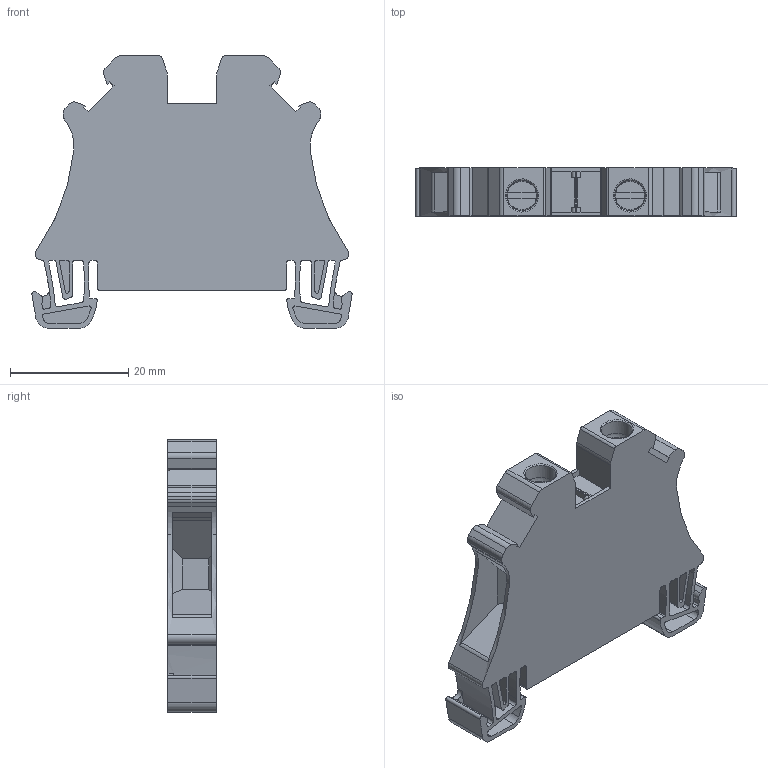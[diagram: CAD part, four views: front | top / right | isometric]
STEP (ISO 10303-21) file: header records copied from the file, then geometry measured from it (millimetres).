
FILE_DESCRIPTION( ('This file contains a STEP AP42 implementation' ,'as created by ZW3D STEP Interface translator.') ,'2;1' );
FILE_NAME( 'RUT6傷赽耀倰.stp' ,'23 4 7.1645 9', (''), ('ZWCAD Software Co.'), 'Version 1.0', 'ZW3D to STEP translator', '' );
FILE_SCHEMA(('AUTOMOTIVE_DESIGN { 1 0 10303 214 1 1 1 1 }'));
Length unit declared in the file: millimetre
Products named in the file (2): 0; RUT6-PE_錨璃45
Bounding box: 54.13 x 8.15 x 46 mm (x, y, z)
Volume: 11605 mm3; surface area: 7174.5 mm2
Topology: 1 solids, 1 shells, 272 faces, 779 edges, 519 vertices
Faces by surface type: plane 143, cylinder 119, bspline 6, cone 2, torus 2
Full cylindrical faces by diameter (mm): 5 x2, 5.2 x4
Entity records: 10505 total; most frequent: CARTESIAN_POINT 2915, ORIENTED_EDGE 1558, DIRECTION 1532, EDGE_CURVE 779, AXIS2_PLACEMENT_3D 526, VERTEX_POINT 519, VECTOR 480, LINE 480
